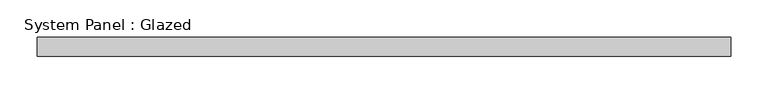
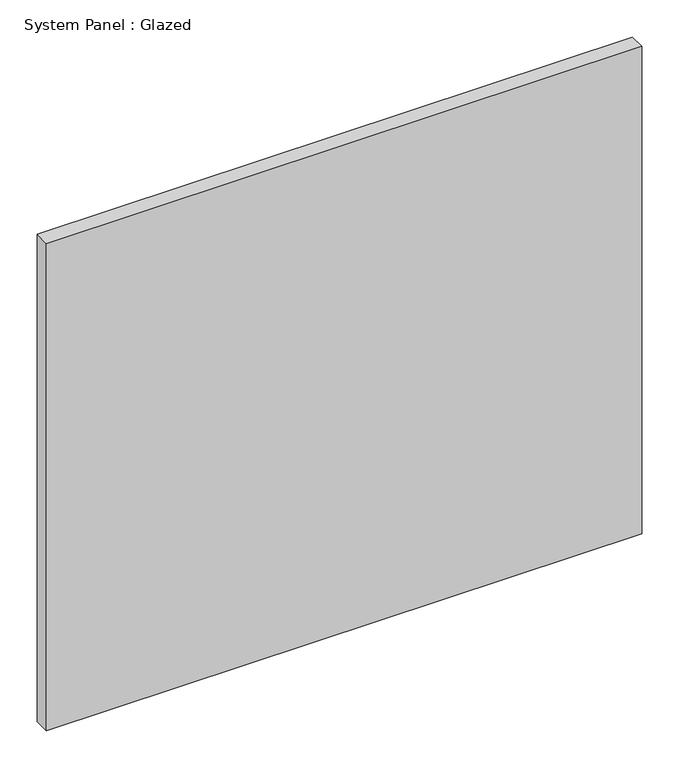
"""IFC4 building model written with IfcOpenShell, lengths in millimetres: plate geometry, System Panel : Glazed."""

from ifc_helpers import new_model, si_unit, origin, origin_with_axes, place, context, project, spatial, polyline, outline, extrude, source, transform, mapped, element, save


def system_panel_glazed_bf619781(model_context):
    return source(origin(), model_context, "Body", "SweptSolid", [
        extrude(outline(polyline([(463.55, 19.05), (-463.55, 19.05), (-463.55, 44.45), (463.55, 44.45), (463.55, 19.05)])), origin_with_axes(), (0.0, 0.0, 1.0), 802.4190025),
    ])


if __name__ == "__main__":
    model = new_model("IFC4")
    model_context = context("Model", 3, world=origin())
    ifc_project = project(units=[si_unit("LENGTHUNIT", "METRE", prefix="MILLI")], contexts=[model_context])
    site = spatial("IfcSite", under=ifc_project)
    building = spatial("IfcBuilding", under=site)
    placement = place(None, origin())
    system_panel_glazed_shape = system_panel_glazed_bf619781(model_context)
    element("IfcPlate", 1, ObjectType="System Panel : Glazed", at=placement, inside=building, context=model_context, shape_type="MappedRepresentation", body=[
        mapped(system_panel_glazed_shape, transform((0.0, 0.0, 0.0), x_axis=(1.0, 0.0, 0.0), y_axis=(0.0, 1.0, 0.0), z_axis=(0.0, 0.0, 1.0))),
    ])
    save(model, "model.ifc")
